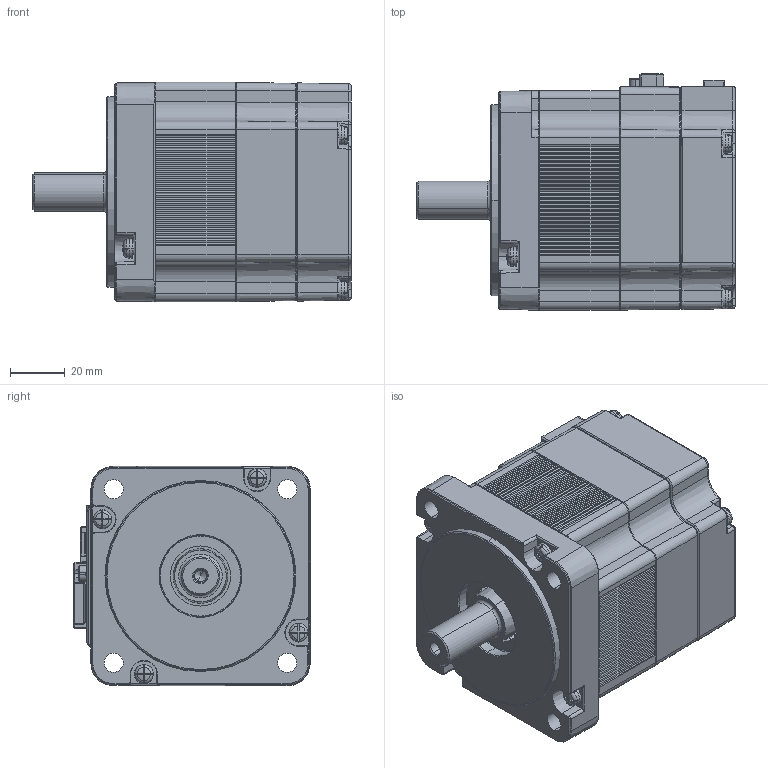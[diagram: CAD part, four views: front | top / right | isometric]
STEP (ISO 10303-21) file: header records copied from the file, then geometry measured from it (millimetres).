
FILE_DESCRIPTION (( 'STEP AP203' ), '1' );
FILE_NAME ('80-400W NON-BRAKE.STEP', '2021-12-28T01:25:16', ( '' ), ( '' ), 'SwSTEP 2.0', 'SolidWorks 2020', '' );
FILE_SCHEMA (( 'CONFIG_CONTROL_DESIGN' ));
Length unit declared in the file: millimetre
Products named in the file (9): ﹤80 BRACKET(NON BRAKE)_棻檜議蝶た 陛奢紫; ﹤80 ENCODER COVER_棻檜議蝶た 陛奢紫; 80-400W NON-BRAKE; ﹤80-400W NON-BRAKE SHAFT(盪婦撩); POWER RECEPTACLE; m4x30_ル遽; ENCODER Receptacle; ﹤80-400W(盪婦撩) FRAME; ∴80 FLANGE_促捞某胶泼 啊傍档_历包己
Assembly tree (15 placements, depth 2):
  80-400W NON-BRAKE
    ﹤80-400W(盪婦撩) FRAME
    ﹤80-400W NON-BRAKE SHAFT(盪婦撩)
    ENCODER Receptacle
    POWER RECEPTACLE
    m4x30_ル遽  x8
    ﹤80 ENCODER COVER_棻檜議蝶た 陛奢紫
    ∴80 FLANGE_促捞某胶泼 啊傍档_历包己
    ﹤80 BRACKET(NON BRAKE)_棻檜議蝶た 陛奢紫
Bounding box: 116.7 x 86.61 x 80.42 mm (x, y, z)
Volume: 194243.4 mm3; surface area: 99130 mm2
Topology: 15 solids, 21 shells, 2223 faces, 5702 edges, 3581 vertices
Faces by surface type: plane 1072, cylinder 631, bspline 204, cone 196, torus 76, sphere 44
Entity records: 66011 total; most frequent: CARTESIAN_POINT 16666, ORIENTED_EDGE 10308, DIRECTION 9837, EDGE_CURVE 5154, AXIS2_PLACEMENT_3D 3362, VERTEX_POINT 3238, LINE 3113, VECTOR 3113
